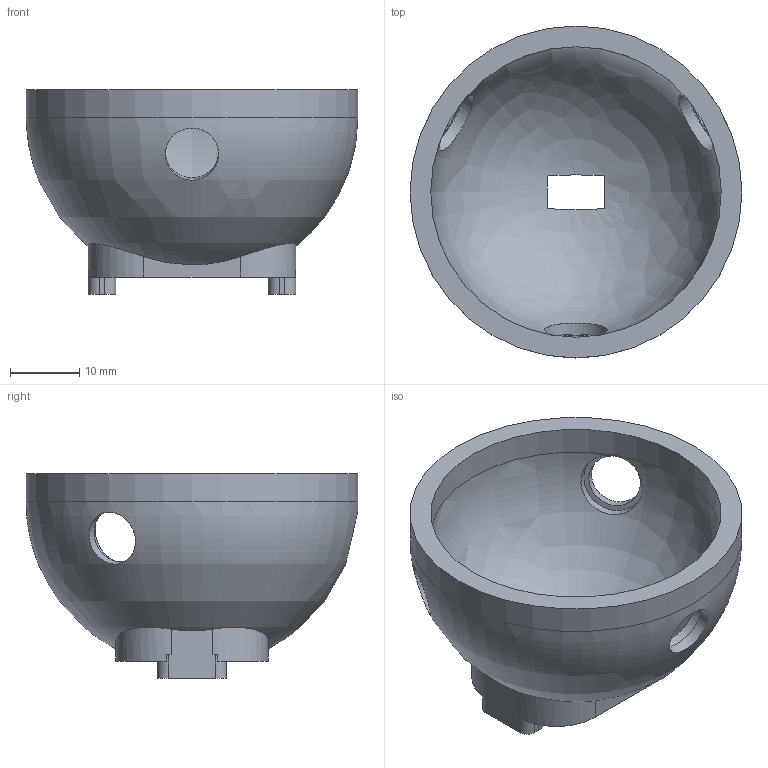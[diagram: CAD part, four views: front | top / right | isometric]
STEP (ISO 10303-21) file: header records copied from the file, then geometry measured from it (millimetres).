
FILE_DESCRIPTION(('Open CASCADE Model'),'2;1');
FILE_NAME('Open CASCADE Shape Model','2026-05-31T19:42:58',('Author'),( 'Open CASCADE'),'Open CASCADE STEP processor 7.6','Open CASCADE 7.6' ,'Unknown');
FILE_SCHEMA(('AP242_MANAGED_MODEL_BASED_3D_ENGINEERING_MIM_LF. {1 0 10303 442 1 1 4 }'));
Length unit declared in the file: millimetre
Products named in the file (1): Open CASCADE STEP translator 7.6 7
Bounding box: 48 x 48 x 29.6 mm (x, y, z)
Volume: 11281 mm3; surface area: 8411.5 mm2
Topology: 1 solids, 1 shells, 71 faces, 194 edges, 128 vertices
Faces by surface type: plane 35, cylinder 28, bspline 4, revolution 2, cone 2
Full cylindrical faces by diameter (mm): 2.05 x2, 7.7 x3, 9.2 x3, 42 x1, 48 x1
Entity records: 8144 total; most frequent: CARTESIAN_POINT 4326, DIRECTION 702, ORIENTED_EDGE 384, PCURVE 384, DEFINITIONAL_REPRESENTATION 384, LINE 382, VECTOR 382, EDGE_CURVE 192
